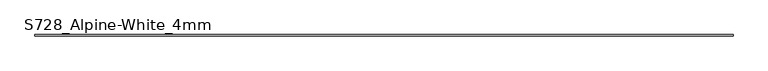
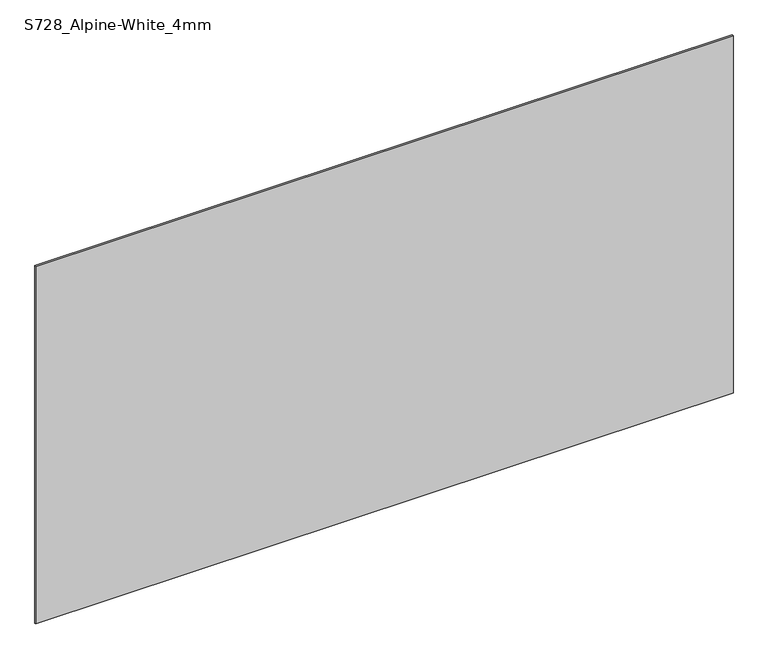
"""IFC4 building model written with IfcOpenShell, lengths in millimetres: plate geometry, Curtain-Panels_Outdoor-Material_HI-MACS_Solids : S728_Alpine-White_4mm."""

from ifc_helpers import new_model, si_unit, origin, origin_with_axes, place, context, project, spatial, polyline, outline, extrude, source, transform, mapped, element, save


def s728_alpine_white_4mm_8f4ecff2(model_context):
    return source(origin(), model_context, "Body", "SweptSolid", [
        extrude(outline(polyline([(1245.0, 2.0), (1245.0, -2.0), (-1245.0, -2.0), (-1245.0, 2.0), (1245.0, 2.0)])), origin_with_axes(), (0.0, 0.0, 1.0), 1350.0),
    ])


if __name__ == "__main__":
    model = new_model("IFC4")
    model_context = context("Model", 3, world=origin())
    ifc_project = project(units=[si_unit("LENGTHUNIT", "METRE", prefix="MILLI")], contexts=[model_context])
    site = spatial("IfcSite", under=ifc_project)
    building = spatial("IfcBuilding", under=site)
    placement = place(None, origin())
    s728_alpine_white_4mm_shape = s728_alpine_white_4mm_8f4ecff2(model_context)
    element("IfcPlate", 1, ObjectType="Curtain-Panels_Outdoor-Material_HI-MACS_Solids : S728_Alpine-White_4mm", at=placement, inside=building, context=model_context, shape_type="MappedRepresentation", body=[
        mapped(s728_alpine_white_4mm_shape, transform((0.0, 0.0, 0.0), x_axis=(1.0, 0.0, 0.0), y_axis=(0.0, 1.0, 0.0), z_axis=(0.0, 0.0, 1.0))),
    ])
    save(model, "model.ifc")
